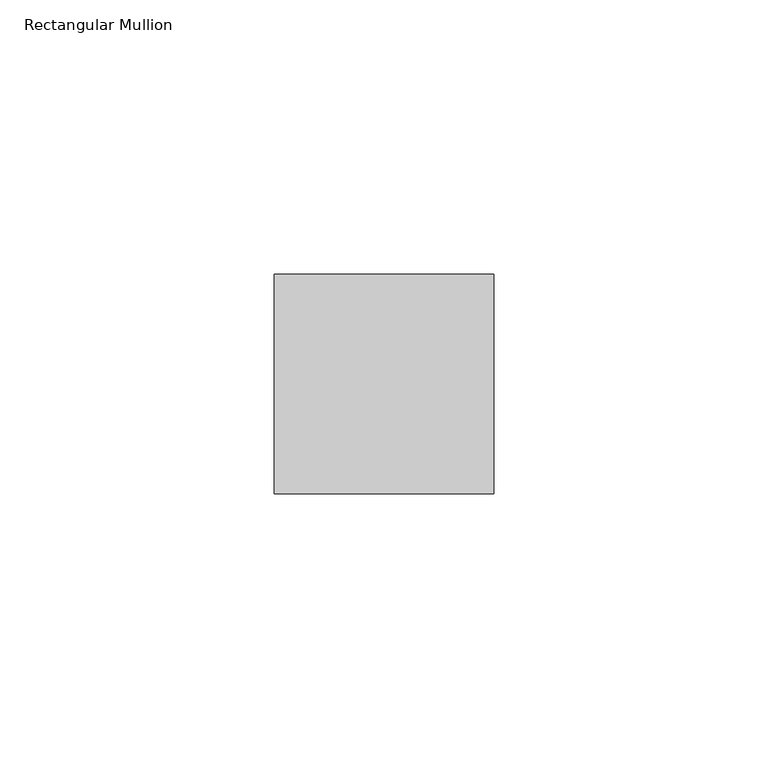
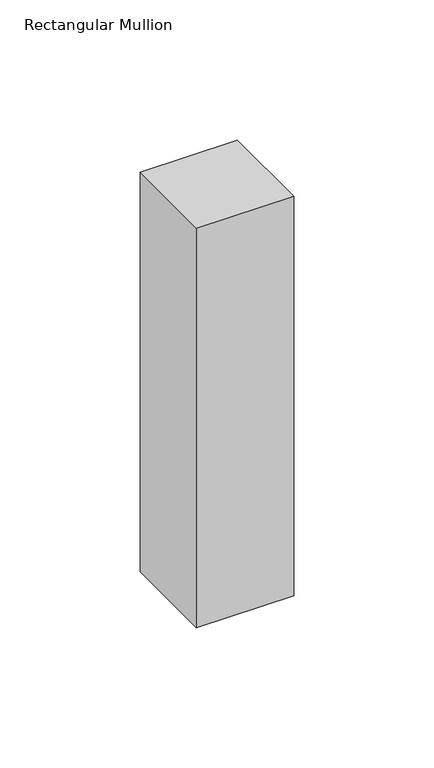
"""IFC4 building model written with IfcOpenShell, lengths in millimetres: member geometry, Rectangular Mullion : Danpal_NM_MiddleH-Mullion."""

from ifc_helpers import new_model, si_unit, frame, origin, place, context, project, spatial, polyline, outline, extrude, source, transform, mapped, element, save


def rectangular_mullion_1f556744(model_context):
    return source(origin(), model_context, "Body", "SweptSolid", [
        extrude(outline(polyline([(0.0, -108.6621721), (-40.0, -108.6621721), (-40.0, -68.6621721), (0.0, -68.6621721), (0.0, -108.6621721)])), frame((0.0, 0.0, -173.858957), z_axis=(0.0, 0.0, 1.0), x_axis=(1.0, 0.0, 0.0)), (0.0, 0.0, 1.0), 173.858957),
    ])


if __name__ == "__main__":
    model = new_model("IFC4")
    model_context = context("Model", 3, world=origin())
    ifc_project = project(units=[si_unit("LENGTHUNIT", "METRE", prefix="MILLI")], contexts=[model_context])
    site = spatial("IfcSite", under=ifc_project)
    building = spatial("IfcBuilding", under=site)
    placement = place(None, origin())
    rectangular_mullion_shape = rectangular_mullion_1f556744(model_context)
    element("IfcMember", 1, ObjectType="Rectangular Mullion : Danpal_NM_MiddleH-Mullion", at=placement, inside=building, context=model_context, shape_type="MappedRepresentation", body=[
        mapped(rectangular_mullion_shape, transform((0.0, 0.0, 0.0), x_axis=(1.0, 0.0, 0.0), y_axis=(0.0, 1.0, 0.0), z_axis=(0.0, 0.0, 1.0))),
    ])
    save(model, "model.ifc")
